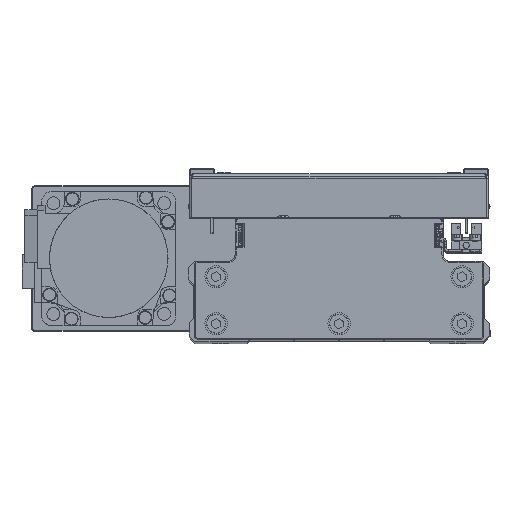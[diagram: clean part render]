
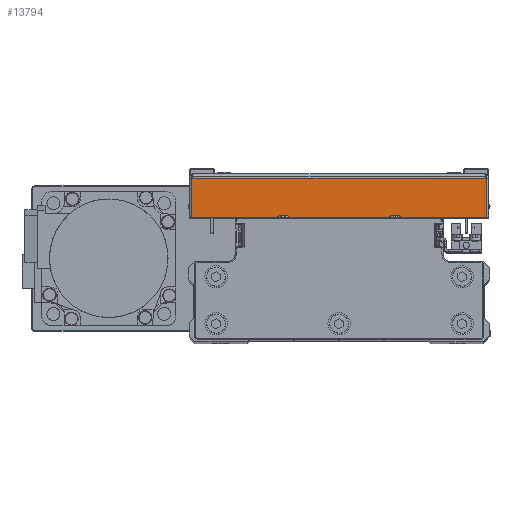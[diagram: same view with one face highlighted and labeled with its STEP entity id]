
A CAD part, top view. The second image highlights one B-rep face of the part: STEP entity #13794.
In plain terms, the highlighted planar face has unit normal (0, 0, 1) as drawn and (1, 0, 0) by its records, which use the part's own axes.
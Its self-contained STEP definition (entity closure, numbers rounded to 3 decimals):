
#1132 = LINE ( 'NONE', #14565, #40262 ) ;
#1235 = CARTESIAN_POINT ( 'NONE',  ( 100., 0., 0. ) ) ;
#2739 = EDGE_CURVE ( 'NONE', #28537, #3088, #26825, .T. ) ;
#3088 = VERTEX_POINT ( 'NONE', #8926 ) ;
#3213 = EDGE_CURVE ( 'NONE', #9007, #30095, #13314, .T. ) ;
#3469 = LINE ( 'NONE', #16899, #5542 ) ;
#3836 = EDGE_CURVE ( 'NONE', #3088, #30095, #1132, .T. ) ;
#4414 = CARTESIAN_POINT ( 'NONE',  ( 100., 1., -65.929 ) ) ;
#5542 = VECTOR ( 'NONE', #30358, 1000. ) ;
#8926 = CARTESIAN_POINT ( 'NONE',  ( 100., 18.5, -65.929 ) ) ;
#9007 = VERTEX_POINT ( 'NONE', #36777 ) ;
#10078 = DIRECTION ( 'NONE',  ( 0., 1., 0. ) ) ;
#12579 = ORIENTED_EDGE ( 'NONE', *, *, #33633, .F. ) ;
#13314 = LINE ( 'NONE', #26772, #38813 ) ;
#13794 = ADVANCED_FACE ( 'NONE', ( #17995 ), #31441, .F. ) ;
#14565 = CARTESIAN_POINT ( 'NONE',  ( 100., 18.5, 0. ) ) ;
#14672 = DIRECTION ( 'NONE',  ( -1., 0., 0. ) ) ;
#16375 = ORIENTED_EDGE ( 'NONE', *, *, #3213, .F. ) ;
#16899 = CARTESIAN_POINT ( 'NONE',  ( 100., 1., 67. ) ) ;
#17920 = ORIENTED_EDGE ( 'NONE', *, *, #3836, .T. ) ;
#17995 = FACE_OUTER_BOUND ( 'NONE', #24855, .T. ) ;
#21139 = ORIENTED_EDGE ( 'NONE', *, *, #2739, .T. ) ;
#24855 = EDGE_LOOP ( 'NONE', ( #12579, #21139, #17920, #16375 ) ) ;
#26772 = CARTESIAN_POINT ( 'NONE',  ( 100., 0., 65.929 ) ) ;
#26825 = LINE ( 'NONE', #40293, #30435 ) ;
#28017 = DIRECTION ( 'NONE',  ( 0., 0., 1. ) ) ;
#28128 = DIRECTION ( 'NONE',  ( 0., -1., 0. ) ) ;
#28537 = VERTEX_POINT ( 'NONE', #4414 ) ;
#30095 = VERTEX_POINT ( 'NONE', #43432 ) ;
#30358 = DIRECTION ( 'NONE',  ( 0., 0., 1. ) ) ;
#30435 = VECTOR ( 'NONE', #10078, 1000. ) ;
#31441 = PLANE ( 'NONE',  #37556 ) ;
#33633 = EDGE_CURVE ( 'NONE', #28537, #9007, #3469, .T. ) ;
#36777 = CARTESIAN_POINT ( 'NONE',  ( 100., 1., 65.929 ) ) ;
#37556 = AXIS2_PLACEMENT_3D ( 'NONE', #1235, #14672, #28128 ) ;
#38813 = VECTOR ( 'NONE', #40232, 1000. ) ;
#40232 = DIRECTION ( 'NONE',  ( 0., 1., 0. ) ) ;
#40262 = VECTOR ( 'NONE', #28017, 1000. ) ;
#40293 = CARTESIAN_POINT ( 'NONE',  ( 100., 0., -65.929 ) ) ;
#43432 = CARTESIAN_POINT ( 'NONE',  ( 100., 18.5, 65.929 ) ) ;
